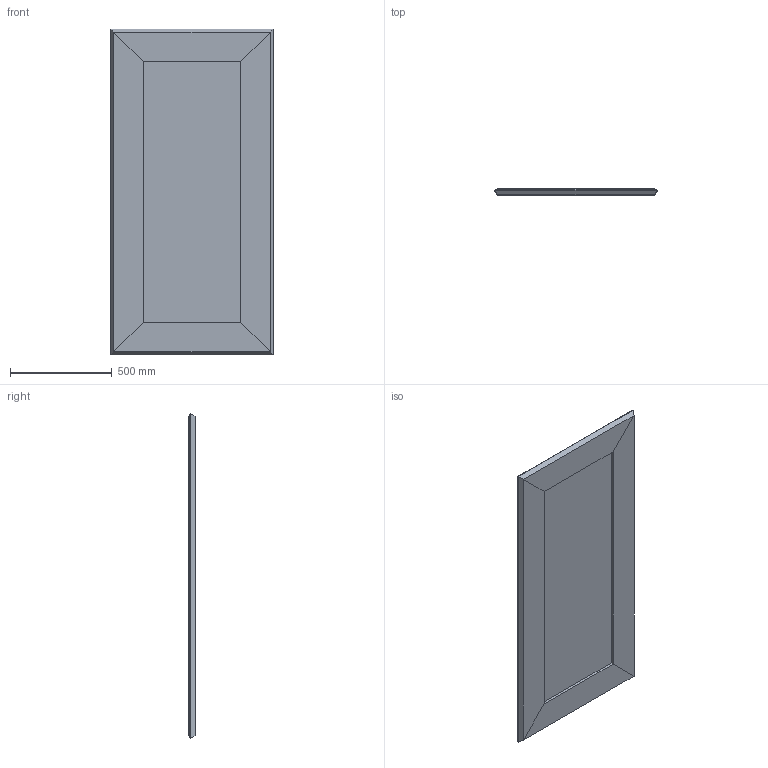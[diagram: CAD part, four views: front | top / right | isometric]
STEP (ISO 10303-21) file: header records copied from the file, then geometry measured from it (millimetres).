
FILE_DESCRIPTION (( 'STEP AP203' ), '1' );
FILE_NAME ('PRI04_Prisma_160x80.STEP', '2024-08-06T07:46:53', ( '' ), ( '' ), 'SwSTEP 2.0', 'SolidWorks 2022', '' );
FILE_SCHEMA (( 'CONFIG_CONTROL_DESIGN' ));
Length unit declared in the file: millimetre
Products named in the file (1): PRI04_Prisma_160x80
Bounding box: 800 x 30 x 1600 mm (x, y, z)
Volume: 24579186.2 mm3; surface area: 3063255.9 mm2
Topology: 5 solids, 5 shells, 166 faces, 424 edges, 272 vertices
Faces by surface type: plane 98, cylinder 44, cone 24
Entity records: 5101 total; most frequent: DIRECTION 870, CARTESIAN_POINT 863, ORIENTED_EDGE 848, EDGE_CURVE 424, LINE 312, VECTOR 312, AXIS2_PLACEMENT_3D 279, VERTEX_POINT 272
